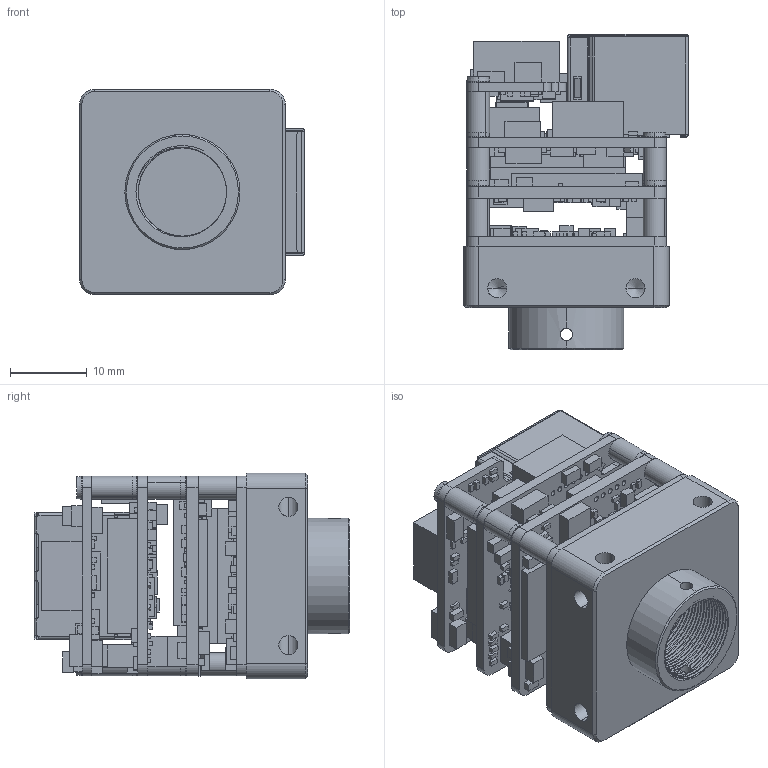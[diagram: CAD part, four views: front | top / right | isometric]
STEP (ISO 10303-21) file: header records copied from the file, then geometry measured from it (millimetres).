
FILE_DESCRIPTION (( 'STEP AP203' ), '1' );
FILE_NAME ('HM-P-M12.STEP', '2023-06-17T09:20:46', ( '' ), ( '' ), 'SwSTEP 2.0', 'SolidWorks 2022', '' );
FILE_SCHEMA (( 'CONFIG_CONTROL_DESIGN' ));
Length unit declared in the file: millimetre
Products named in the file (9): S180001-009; S180001-008; ML26-005; PS178-003; MG26H-003-RJ45; GB_CROSS_SCREWS_TYPE135 M2X5-N_GB_CROSS_SCREWS_TYPE135 M2X5-N; S210011-001-A0; HM-P-M12; MPT-003
Assembly tree (21 placements, depth 2):
  HM-P-M12
    S210011-001-A0
    PS178-003
    MPT-003
    ML26-005
    MG26H-003-RJ45
    S180001-008  x6
    S180001-009  x2
    GB_CROSS_SCREWS_TYPE135 M2X5-N_GB_CROSS_SCREWS_TYPE135 M2X5-N  x8
Bounding box: 29.3 x 41.11 x 26.8 mm (x, y, z)
Volume: 12839.8 mm3; surface area: 21532.3 mm2
Topology: 357 solids, 357 shells, 3485 faces, 8143 edges, 5354 vertices
Faces by surface type: plane 2900, cylinder 469, cone 85, torus 16, bspline 13, sphere 2
Entity records: 98740 total; most frequent: CARTESIAN_POINT 24951, ORIENTED_EDGE 14974, DIRECTION 13787, EDGE_CURVE 7487, VECTOR 6517, LINE 6517, VERTEX_POINT 4949, AXIS2_PLACEMENT_3D 3635
